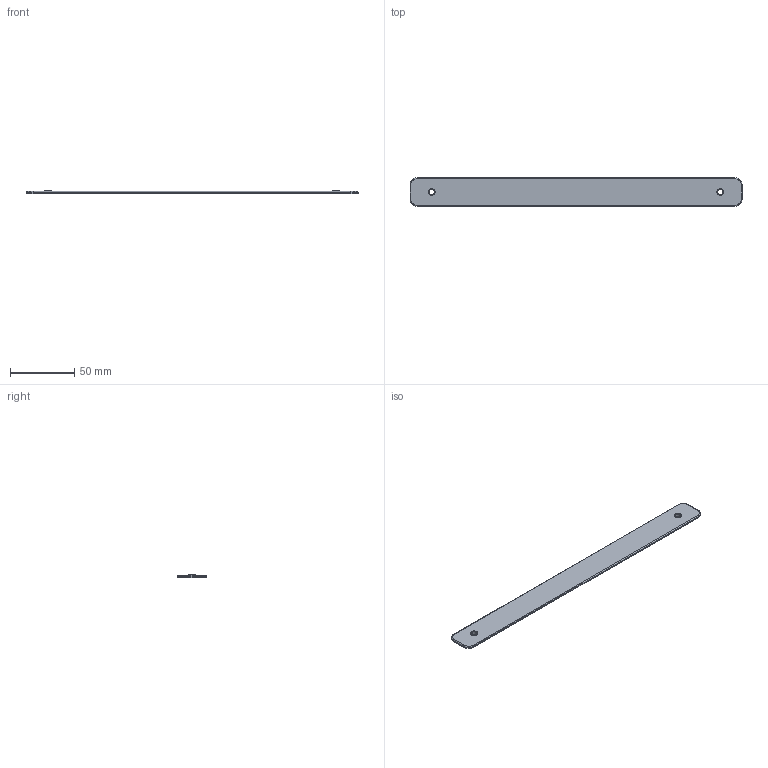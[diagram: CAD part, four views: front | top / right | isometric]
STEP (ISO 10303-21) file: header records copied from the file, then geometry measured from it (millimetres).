
FILE_DESCRIPTION(('Open CASCADE Model'),'2;1');
FILE_NAME('W-BAR-WL224-22','2026-10-19T21:23:53',('Author'),( 'Open CASCADE'),'Open CASCADE STEP processor 8.0','build123d', 'Unknown');
FILE_SCHEMA(('AUTOMOTIVE_DESIGN { 1 0 10303 214 1 1 1 1 }'));
Length unit declared in the file: millimetre
Products named in the file (2): W-BAR-WL224-22; brass_WL224-22__w
Assembly tree (1 placements, depth 2):
  W-BAR-WL224-22
    brass_WL224-22__w
Bounding box: 258 x 22 x 2.79 mm (x, y, z)
Volume: 10059.1 mm3; surface area: 12109.3 mm2
Topology: 1 solids, 1 shells, 32 faces, 68 edges, 40 vertices
Faces by surface type: plane 12, cylinder 12, cone 4, torus 4
Full cylindrical faces by diameter (mm): 4.3 x2, 5 x2
Entity records: 1768 total; most frequent: CARTESIAN_POINT 358, DIRECTION 264, ORIENTED_EDGE 136, PCURVE 136, DEFINITIONAL_REPRESENTATION 136, LINE 124, VECTOR 124, EDGE_CURVE 68
